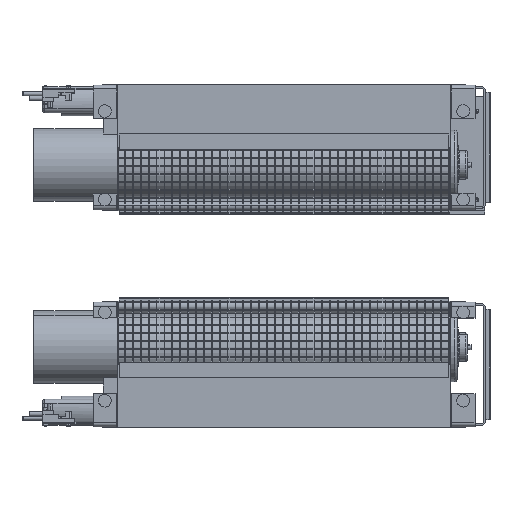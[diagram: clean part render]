
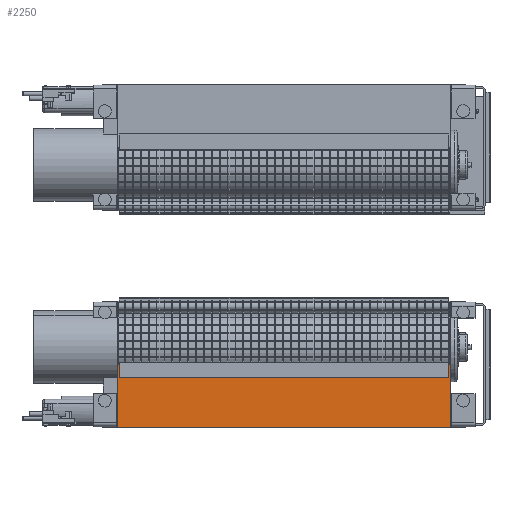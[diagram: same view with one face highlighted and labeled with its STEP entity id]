
A CAD part, top view. The second image highlights one B-rep face of the part: STEP entity #2250.
In plain terms, the highlighted planar face has unit normal (0, 0, 1).
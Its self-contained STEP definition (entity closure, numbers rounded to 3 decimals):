
#1741=CARTESIAN_POINT('',(-211.,158.,130.));
#1742=VERTEX_POINT('',#1741);
#1743=CARTESIAN_POINT('',(-211.,2.,130.));
#1744=VERTEX_POINT('',#1743);
#1745=CARTESIAN_POINT('',(-211.,158.,130.));
#1746=DIRECTION('',(0.,-1.,0.));
#1747=VECTOR('',#1746,156.);
#1748=LINE('',#1745,#1747);
#1749=EDGE_CURVE('',#1742,#1744,#1748,.T.);
#1908=CARTESIAN_POINT('',(-212.,159.,130.));
#1909=VERTEX_POINT('',#1908);
#1910=CARTESIAN_POINT('',(-212.,158.,130.));
#1911=DIRECTION('',(0.,0.,-1.));
#1912=DIRECTION('',(0.,1.,0.));
#1913=AXIS2_PLACEMENT_3D('',#1910,#1911,#1912);
#1914=CIRCLE('',#1913,1.);
#1915=EDGE_CURVE('',#1909,#1742,#1914,.T.);
#1941=CARTESIAN_POINT('',(-212.,1.,130.));
#1942=VERTEX_POINT('',#1941);
#1943=CARTESIAN_POINT('',(-212.,2.,130.));
#1944=DIRECTION('',(0.,0.,-1.));
#1945=DIRECTION('',(1.,0.,0.));
#1946=AXIS2_PLACEMENT_3D('',#1943,#1944,#1945);
#1947=CIRCLE('',#1946,1.);
#1948=EDGE_CURVE('',#1744,#1942,#1947,.T.);
#2035=CARTESIAN_POINT('',(-230.,159.,130.));
#2036=VERTEX_POINT('',#2035);
#2043=CARTESIAN_POINT('',(-230.,159.,130.));
#2044=DIRECTION('',(1.,0.,0.));
#2045=VECTOR('',#2044,18.);
#2046=LINE('',#2043,#2045);
#2047=EDGE_CURVE('',#2036,#1909,#2046,.T.);
#2093=CARTESIAN_POINT('',(0.,0.,130.));
#2094=DIRECTION('',(0.,0.,-1.));
#2095=DIRECTION('',(0.,1.,0.));
#2096=AXIS2_PLACEMENT_3D('',#2093,#2094,#2095);
#2097=PLANE('',#2096);
#2098=CARTESIAN_POINT('',(230.,160.,130.));
#2099=VERTEX_POINT('',#2098);
#2100=CARTESIAN_POINT('',(212.,160.,130.));
#2101=VERTEX_POINT('',#2100);
#2102=CARTESIAN_POINT('',(230.,160.,130.));
#2103=DIRECTION('',(-1.,-0.,-0.));
#2104=VECTOR('',#2103,18.);
#2105=LINE('',#2102,#2104);
#2106=EDGE_CURVE('',#2099,#2101,#2105,.T.);
#2107=ORIENTED_EDGE('',*,*,#2106,.F.);
#2108=CARTESIAN_POINT('',(230.,159.,130.));
#2109=VERTEX_POINT('',#2108);
#2110=CARTESIAN_POINT('',(230.,159.,130.));
#2111=DIRECTION('',(0.,1.,0.));
#2112=VECTOR('',#2111,1.);
#2113=LINE('',#2110,#2112);
#2114=EDGE_CURVE('',#2109,#2099,#2113,.T.);
#2115=ORIENTED_EDGE('',*,*,#2114,.F.);
#2116=CARTESIAN_POINT('',(212.,159.,130.));
#2117=VERTEX_POINT('',#2116);
#2118=CARTESIAN_POINT('',(212.,159.,130.));
#2119=DIRECTION('',(1.,0.,0.));
#2120=VECTOR('',#2119,18.);
#2121=LINE('',#2118,#2120);
#2122=EDGE_CURVE('',#2117,#2109,#2121,.T.);
#2123=ORIENTED_EDGE('',*,*,#2122,.F.);
#2124=CARTESIAN_POINT('',(211.,158.,130.));
#2125=VERTEX_POINT('',#2124);
#2126=CARTESIAN_POINT('',(212.,158.,130.));
#2127=DIRECTION('',(0.,0.,-1.));
#2128=DIRECTION('',(-1.,0.,0.));
#2129=AXIS2_PLACEMENT_3D('',#2126,#2127,#2128);
#2130=CIRCLE('',#2129,1.);
#2131=EDGE_CURVE('',#2125,#2117,#2130,.T.);
#2132=ORIENTED_EDGE('',*,*,#2131,.F.);
#2133=CARTESIAN_POINT('',(211.,2.,130.));
#2134=VERTEX_POINT('',#2133);
#2135=CARTESIAN_POINT('',(211.,2.,130.));
#2136=DIRECTION('',(0.,1.,0.));
#2137=VECTOR('',#2136,156.);
#2138=LINE('',#2135,#2137);
#2139=EDGE_CURVE('',#2134,#2125,#2138,.T.);
#2140=ORIENTED_EDGE('',*,*,#2139,.F.);
#2141=CARTESIAN_POINT('',(212.,1.,130.));
#2142=VERTEX_POINT('',#2141);
#2143=CARTESIAN_POINT('',(212.,2.,130.));
#2144=DIRECTION('',(0.,0.,-1.));
#2145=DIRECTION('',(0.,-1.,0.));
#2146=AXIS2_PLACEMENT_3D('',#2143,#2144,#2145);
#2147=CIRCLE('',#2146,1.);
#2148=EDGE_CURVE('',#2142,#2134,#2147,.T.);
#2149=ORIENTED_EDGE('',*,*,#2148,.F.);
#2150=CARTESIAN_POINT('',(230.,1.,130.));
#2151=VERTEX_POINT('',#2150);
#2152=CARTESIAN_POINT('',(230.,1.,130.));
#2153=DIRECTION('',(-1.,-0.,-0.));
#2154=VECTOR('',#2153,18.);
#2155=LINE('',#2152,#2154);
#2156=EDGE_CURVE('',#2151,#2142,#2155,.T.);
#2157=ORIENTED_EDGE('',*,*,#2156,.F.);
#2158=CARTESIAN_POINT('',(230.,0.,130.));
#2159=VERTEX_POINT('',#2158);
#2160=CARTESIAN_POINT('',(230.,0.,130.));
#2161=DIRECTION('',(0.,1.,0.));
#2162=VECTOR('',#2161,1.);
#2163=LINE('',#2160,#2162);
#2164=EDGE_CURVE('',#2159,#2151,#2163,.T.);
#2165=ORIENTED_EDGE('',*,*,#2164,.F.);
#2166=CARTESIAN_POINT('',(-230.,0.,130.));
#2167=VERTEX_POINT('',#2166);
#2168=CARTESIAN_POINT('',(-230.,0.,130.));
#2169=DIRECTION('',(1.,0.,0.));
#2170=VECTOR('',#2169,460.);
#2171=LINE('',#2168,#2170);
#2172=EDGE_CURVE('',#2167,#2159,#2171,.T.);
#2173=ORIENTED_EDGE('',*,*,#2172,.F.);
#2174=CARTESIAN_POINT('',(-230.,1.,130.));
#2175=VERTEX_POINT('',#2174);
#2176=CARTESIAN_POINT('',(-230.,1.,130.));
#2177=DIRECTION('',(-0.,-1.,-0.));
#2178=VECTOR('',#2177,1.);
#2179=LINE('',#2176,#2178);
#2180=EDGE_CURVE('',#2175,#2167,#2179,.T.);
#2181=ORIENTED_EDGE('',*,*,#2180,.F.);
#2182=CARTESIAN_POINT('',(-212.,1.,130.));
#2183=DIRECTION('',(-1.,-0.,-0.));
#2184=VECTOR('',#2183,18.);
#2185=LINE('',#2182,#2184);
#2186=EDGE_CURVE('',#1942,#2175,#2185,.T.);
#2187=ORIENTED_EDGE('',*,*,#2186,.F.);
#2188=ORIENTED_EDGE('',*,*,#1948,.F.);
#2189=ORIENTED_EDGE('',*,*,#1749,.F.);
#2190=ORIENTED_EDGE('',*,*,#1915,.F.);
#2191=ORIENTED_EDGE('',*,*,#2047,.F.);
#2192=CARTESIAN_POINT('',(-230.,160.,130.));
#2193=VERTEX_POINT('',#2192);
#2194=CARTESIAN_POINT('',(-230.,160.,130.));
#2195=DIRECTION('',(-0.,-1.,-0.));
#2196=VECTOR('',#2195,1.);
#2197=LINE('',#2194,#2196);
#2198=EDGE_CURVE('',#2193,#2036,#2197,.T.);
#2199=ORIENTED_EDGE('',*,*,#2198,.F.);
#2200=CARTESIAN_POINT('',(-212.,160.,130.));
#2201=VERTEX_POINT('',#2200);
#2202=CARTESIAN_POINT('',(-212.,160.,130.));
#2203=DIRECTION('',(-1.,-0.,-0.));
#2204=VECTOR('',#2203,18.);
#2205=LINE('',#2202,#2204);
#2206=EDGE_CURVE('',#2201,#2193,#2205,.T.);
#2207=ORIENTED_EDGE('',*,*,#2206,.F.);
#2208=CARTESIAN_POINT('',(-210.,158.,130.));
#2209=VERTEX_POINT('',#2208);
#2210=CARTESIAN_POINT('',(-212.,158.,130.));
#2211=DIRECTION('',(0.,0.,-1.));
#2212=DIRECTION('',(1.,0.,0.));
#2213=AXIS2_PLACEMENT_3D('',#2210,#2211,#2212);
#2214=CIRCLE('',#2213,2.);
#2215=EDGE_CURVE('',#2201,#2209,#2214,.T.);
#2216=ORIENTED_EDGE('',*,*,#2215,.T.);
#2217=CARTESIAN_POINT('',(-210.,80.,130.));
#2218=VERTEX_POINT('',#2217);
#2219=CARTESIAN_POINT('',(-210.,80.,130.));
#2220=DIRECTION('',(0.,1.,0.));
#2221=VECTOR('',#2220,78.);
#2222=LINE('',#2219,#2221);
#2223=EDGE_CURVE('',#2218,#2209,#2222,.T.);
#2224=ORIENTED_EDGE('',*,*,#2223,.F.);
#2225=CARTESIAN_POINT('',(210.,80.,130.));
#2226=VERTEX_POINT('',#2225);
#2227=CARTESIAN_POINT('',(-210.,80.,130.));
#2228=DIRECTION('',(1.,0.,0.));
#2229=VECTOR('',#2228,420.);
#2230=LINE('',#2227,#2229);
#2231=EDGE_CURVE('',#2218,#2226,#2230,.T.);
#2232=ORIENTED_EDGE('',*,*,#2231,.T.);
#2233=CARTESIAN_POINT('',(210.,158.,130.));
#2234=VERTEX_POINT('',#2233);
#2235=CARTESIAN_POINT('',(210.,158.,130.));
#2236=DIRECTION('',(-0.,-1.,-0.));
#2237=VECTOR('',#2236,78.);
#2238=LINE('',#2235,#2237);
#2239=EDGE_CURVE('',#2234,#2226,#2238,.T.);
#2240=ORIENTED_EDGE('',*,*,#2239,.F.);
#2241=CARTESIAN_POINT('',(212.,158.,130.));
#2242=DIRECTION('',(0.,0.,-1.));
#2243=DIRECTION('',(0.,1.,0.));
#2244=AXIS2_PLACEMENT_3D('',#2241,#2242,#2243);
#2245=CIRCLE('',#2244,2.);
#2246=EDGE_CURVE('',#2234,#2101,#2245,.T.);
#2247=ORIENTED_EDGE('',*,*,#2246,.T.);
#2248=EDGE_LOOP('',(#2107,#2115,#2123,#2132,#2140,#2149,#2157,#2165,#2173,#2181,#2187,#2188,#2189,#2190,#2191,#2199,#2207,#2216,#2224,#2232,#2240,#2247));
#2249=FACE_BOUND('',#2248,.F.);
#2250=ADVANCED_FACE('',(#2249),#2097,.F.);
